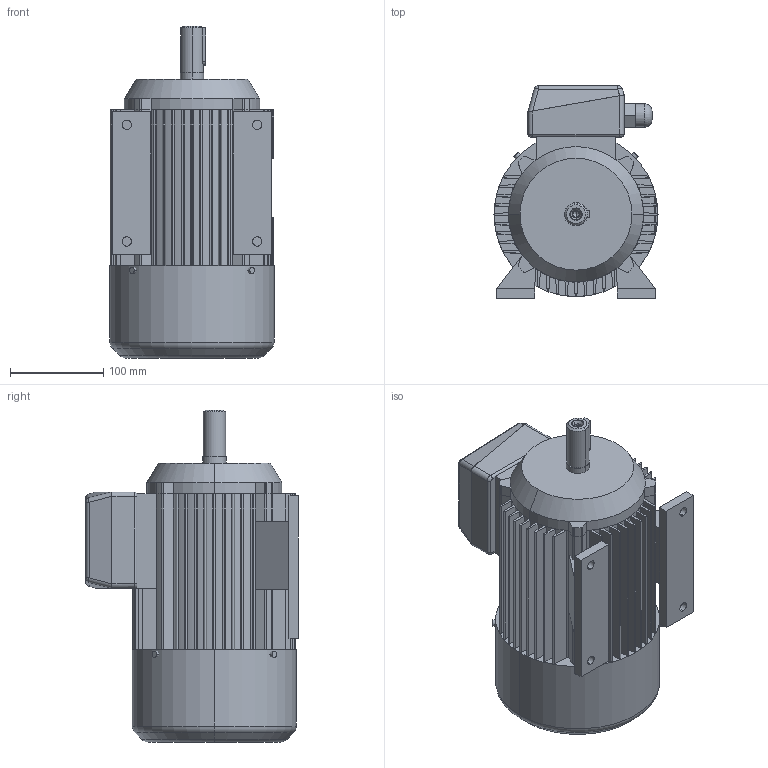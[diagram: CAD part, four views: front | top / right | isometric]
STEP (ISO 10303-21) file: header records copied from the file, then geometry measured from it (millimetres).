
FILE_DESCRIPTION (( 'STEP AP203' ), '1' );
FILE_NAME ('2SIE90L4,6.STEP', '2012-10-26T11:52:49', ( 'INDUKTA' ), ( 'CANTONI MOTOR' ), 'SwSTEP 2.0', 'SolidWorks 2003064', '' );
FILE_SCHEMA (( 'CONFIG_CONTROL_DESIGN' ));
Length unit declared in the file: millimetre
Products named in the file (1): 2SIE90L4,6
Bounding box: 176 x 228 x 356 mm (x, y, z)
Volume: 6912011.4 mm3; surface area: 526535.1 mm2
Topology: 13 solids, 13 shells, 387 faces, 1017 edges, 652 vertices
Faces by surface type: plane 185, cylinder 174, cone 14, torus 10, sphere 4
Entity records: 12022 total; most frequent: DIRECTION 2162, CARTESIAN_POINT 2112, ORIENTED_EDGE 2022, EDGE_CURVE 1011, AXIS2_PLACEMENT_3D 774, VERTEX_POINT 652, LINE 614, VECTOR 614
